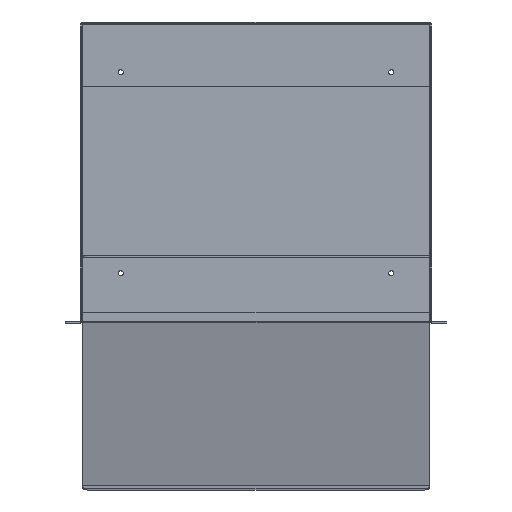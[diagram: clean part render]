
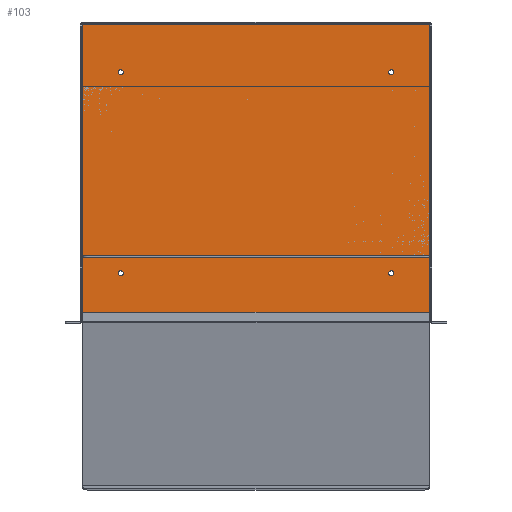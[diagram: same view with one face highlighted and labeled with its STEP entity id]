
A CAD part, top view. The second image highlights one B-rep face of the part: STEP entity #103.
In plain terms, the highlighted planar face has unit normal (0, 0, 1).
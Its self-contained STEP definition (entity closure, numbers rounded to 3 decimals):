
#103 = ADVANCED_FACE( '', ( #245, #246, #247, #248, #249 ), #250, .F. );
#245 = FACE_BOUND( '', #540, .T. );
#246 = FACE_BOUND( '', #541, .T. );
#247 = FACE_BOUND( '', #542, .T. );
#248 = FACE_BOUND( '', #543, .T. );
#249 = FACE_OUTER_BOUND( '', #544, .T. );
#250 = PLANE( '', #545 );
#540 = EDGE_LOOP( '', ( #1020 ) );
#541 = EDGE_LOOP( '', ( #1021 ) );
#542 = EDGE_LOOP( '', ( #1022 ) );
#543 = EDGE_LOOP( '', ( #1023 ) );
#544 = EDGE_LOOP( '', ( #1024, #1025, #1026, #1027 ) );
#545 = AXIS2_PLACEMENT_3D( '', #1028, #1029, #1030 );
#1020 = ORIENTED_EDGE( '', *, *, #1911, .F. );
#1021 = ORIENTED_EDGE( '', *, *, #1912, .F. );
#1022 = ORIENTED_EDGE( '', *, *, #1913, .F. );
#1023 = ORIENTED_EDGE( '', *, *, #1914, .F. );
#1024 = ORIENTED_EDGE( '', *, *, #1910, .F. );
#1025 = ORIENTED_EDGE( '', *, *, #1915, .T. );
#1026 = ORIENTED_EDGE( '', *, *, #1916, .F. );
#1027 = ORIENTED_EDGE( '', *, *, #1902, .T. );
#1028 = CARTESIAN_POINT( '', ( -222.25, 189.586, 1.829 ) );
#1029 = DIRECTION( '', ( 0., 0., -1. ) );
#1030 = DIRECTION( '', ( -1., 0., 0. ) );
#1902 = EDGE_CURVE( '', #2286, #2283, #2287, .T. );
#1910 = EDGE_CURVE( '', #2273, #2283, #2298, .T. );
#1911 = EDGE_CURVE( '', #2299, #2299, #2300, .T. );
#1912 = EDGE_CURVE( '', #2301, #2301, #2302, .T. );
#1913 = EDGE_CURVE( '', #2303, #2303, #2304, .T. );
#1914 = EDGE_CURVE( '', #2305, #2305, #2306, .T. );
#1915 = EDGE_CURVE( '', #2273, #2307, #2308, .T. );
#1916 = EDGE_CURVE( '', #2286, #2307, #2309, .T. );
#2273 = VERTEX_POINT( '', #2868 );
#2283 = VERTEX_POINT( '', #2882 );
#2286 = VERTEX_POINT( '', #2885 );
#2287 = LINE( '', #2886, #2887 );
#2298 = LINE( '', #2903, #2904 );
#2299 = VERTEX_POINT( '', #2905 );
#2300 = CIRCLE( '', #2906, 3.175 );
#2301 = VERTEX_POINT( '', #2907 );
#2302 = CIRCLE( '', #2908, 3.175 );
#2303 = VERTEX_POINT( '', #2909 );
#2304 = CIRCLE( '', #2910, 3.175 );
#2305 = VERTEX_POINT( '', #2911 );
#2306 = CIRCLE( '', #2912, 3.175 );
#2307 = VERTEX_POINT( '', #2913 );
#2308 = LINE( '', #2914, #2915 );
#2309 = LINE( '', #2916, #2917 );
#2868 = CARTESIAN_POINT( '', ( 219.507, 186.842, 1.829 ) );
#2882 = CARTESIAN_POINT( '', ( 219.507, -189.586, 1.829 ) );
#2885 = CARTESIAN_POINT( '', ( -219.507, -189.586, 1.829 ) );
#2886 = CARTESIAN_POINT( '', ( -222.25, -189.586, 1.829 ) );
#2887 = VECTOR( '', #3655, 1000. );
#2903 = CARTESIAN_POINT( '', ( 219.507, 189.586, 1.829 ) );
#2904 = VECTOR( '', #3667, 1000. );
#2905 = CARTESIAN_POINT( '', ( -167.869, 126.086, 1.829 ) );
#2906 = AXIS2_PLACEMENT_3D( '', #3668, #3669, #3670 );
#2907 = CARTESIAN_POINT( '', ( 174.219, -127.914, 1.829 ) );
#2908 = AXIS2_PLACEMENT_3D( '', #3671, #3672, #3673 );
#2909 = CARTESIAN_POINT( '', ( 174.219, 126.086, 1.829 ) );
#2910 = AXIS2_PLACEMENT_3D( '', #3674, #3675, #3676 );
#2911 = CARTESIAN_POINT( '', ( -167.869, -127.914, 1.829 ) );
#2912 = AXIS2_PLACEMENT_3D( '', #3677, #3678, #3679 );
#2913 = CARTESIAN_POINT( '', ( -219.507, 186.842, 1.829 ) );
#2914 = CARTESIAN_POINT( '', ( -219.505, 186.842, 1.829 ) );
#2915 = VECTOR( '', #3680, 1000. );
#2916 = CARTESIAN_POINT( '', ( -219.507, -189.586, 1.829 ) );
#2917 = VECTOR( '', #3681, 1000. );
#3655 = DIRECTION( '', ( 1., 0., 0. ) );
#3667 = DIRECTION( '', ( 0., -1., 0. ) );
#3668 = CARTESIAN_POINT( '', ( -171.044, 126.086, 1.829 ) );
#3669 = DIRECTION( '', ( 0., 0., 1. ) );
#3670 = DIRECTION( '', ( 1., 0., 0. ) );
#3671 = CARTESIAN_POINT( '', ( 171.044, -127.914, 1.829 ) );
#3672 = DIRECTION( '', ( 0., 0., 1. ) );
#3673 = DIRECTION( '', ( 1., 0., 0. ) );
#3674 = CARTESIAN_POINT( '', ( 171.044, 126.086, 1.829 ) );
#3675 = DIRECTION( '', ( 0., 0., 1. ) );
#3676 = DIRECTION( '', ( 1., 0., 0. ) );
#3677 = CARTESIAN_POINT( '', ( -171.044, -127.914, 1.829 ) );
#3678 = DIRECTION( '', ( 0., 0., 1. ) );
#3679 = DIRECTION( '', ( 1., 0., 0. ) );
#3680 = DIRECTION( '', ( -1., 0., 0. ) );
#3681 = DIRECTION( '', ( 0., 1., 0. ) );
